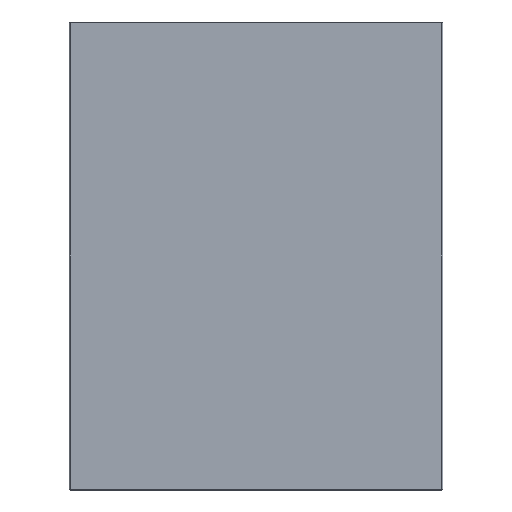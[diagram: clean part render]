
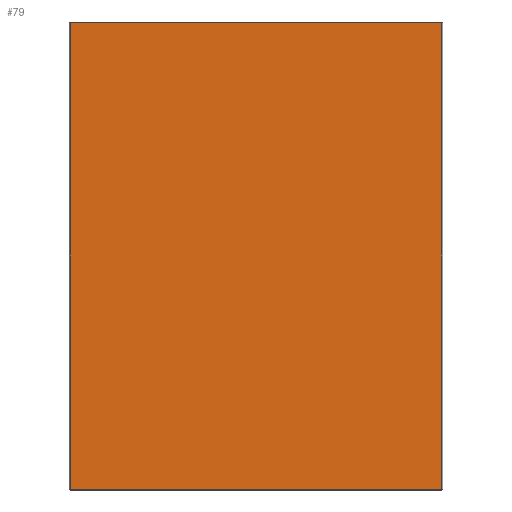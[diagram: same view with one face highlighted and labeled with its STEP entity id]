
A CAD part, front view. The second image highlights one B-rep face of the part: STEP entity #79.
In plain terms, the highlighted planar face has unit normal (0, -1, 0).
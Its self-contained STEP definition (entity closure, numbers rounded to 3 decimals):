
#3 = CARTESIAN_POINT ( 'NONE',  ( 197., 0., 247. ) ) ;
#10 = DIRECTION ( 'NONE',  ( 0., 0., 1. ) ) ;
#14 = CARTESIAN_POINT ( 'NONE',  ( 0., 0., 0. ) ) ;
#22 = ORIENTED_EDGE ( 'NONE', *, *, #418, .T. ) ;
#40 = FACE_OUTER_BOUND ( 'NONE', #373, .T. ) ;
#68 = CARTESIAN_POINT ( 'NONE',  ( 197., 0., 0. ) ) ;
#79 = ADVANCED_FACE ( 'NONE', ( #40 ), #588, .F. ) ;
#166 = LINE ( 'NONE', #611, #417 ) ;
#167 = DIRECTION ( 'NONE',  ( 1., 0., 0. ) ) ;
#171 = LINE ( 'NONE', #578, #638 ) ;
#186 = ORIENTED_EDGE ( 'NONE', *, *, #305, .T. ) ;
#202 = ORIENTED_EDGE ( 'NONE', *, *, #244, .T. ) ;
#244 = EDGE_CURVE ( 'NONE', #362, #626, #490, .T. ) ;
#303 = VECTOR ( 'NONE', #167, 1000. ) ;
#305 = EDGE_CURVE ( 'NONE', #637, #560, #166, .T. ) ;
#320 = LINE ( 'NONE', #613, #303 ) ;
#336 = CARTESIAN_POINT ( 'NONE',  ( -197., 0., 247. ) ) ;
#362 = VERTEX_POINT ( 'NONE', #478 ) ;
#373 = EDGE_LOOP ( 'NONE', ( #202, #520, #186, #22 ) ) ;
#374 = DIRECTION ( 'NONE',  ( -1., 0., 0. ) ) ;
#417 = VECTOR ( 'NONE', #630, 1000. ) ;
#418 = EDGE_CURVE ( 'NONE', #560, #362, #320, .T. ) ;
#478 = CARTESIAN_POINT ( 'NONE',  ( 197., 0., -247. ) ) ;
#490 = LINE ( 'NONE', #68, #579 ) ;
#520 = ORIENTED_EDGE ( 'NONE', *, *, #622, .T. ) ;
#560 = VERTEX_POINT ( 'NONE', #573 ) ;
#573 = CARTESIAN_POINT ( 'NONE',  ( -197., 0., -247. ) ) ;
#578 = CARTESIAN_POINT ( 'NONE',  ( 0., 0., 247. ) ) ;
#579 = VECTOR ( 'NONE', #10, 1000. ) ;
#583 = DIRECTION ( 'NONE',  ( 0., 0., 1. ) ) ;
#588 = PLANE ( 'NONE',  #639 ) ;
#593 = DIRECTION ( 'NONE',  ( 0., 1., 0. ) ) ;
#611 = CARTESIAN_POINT ( 'NONE',  ( -197., 0., 0. ) ) ;
#613 = CARTESIAN_POINT ( 'NONE',  ( 0., 0., -247. ) ) ;
#622 = EDGE_CURVE ( 'NONE', #626, #637, #171, .T. ) ;
#626 = VERTEX_POINT ( 'NONE', #3 ) ;
#630 = DIRECTION ( 'NONE',  ( 0., 0., -1. ) ) ;
#637 = VERTEX_POINT ( 'NONE', #336 ) ;
#638 = VECTOR ( 'NONE', #374, 1000. ) ;
#639 = AXIS2_PLACEMENT_3D ( 'NONE', #14, #593, #583 ) ;
